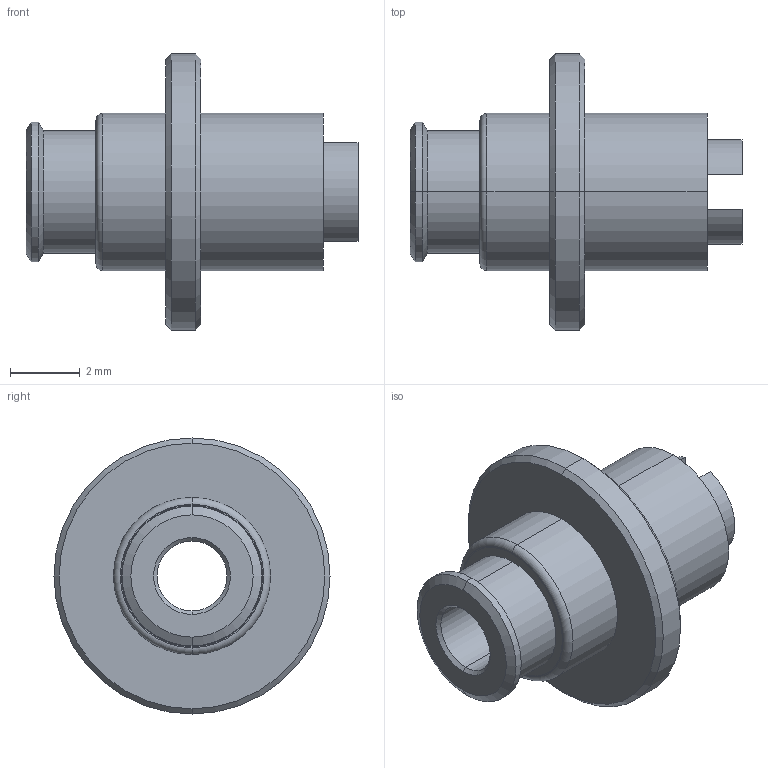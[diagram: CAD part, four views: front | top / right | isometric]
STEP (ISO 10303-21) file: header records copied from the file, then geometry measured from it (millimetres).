
FILE_DESCRIPTION((''),'2;1');
FILE_NAME('C1923-01','2022-05-18T15:20:35',('Administrator'),(''),'CREO PARAMETRIC BY PTC INC, 2018400','CREO PARAMETRIC BY PTC INC, 2018400','');
FILE_SCHEMA(('CONFIG_CONTROL_DESIGN'));
Length unit declared in the file: millimetre
Products named in the file (1): C1923-01
Bounding box: 9.5 x 7.9 x 7.9 mm (x, y, z)
Volume: 132.3 mm3; surface area: 281.4 mm2
Topology: 1 solids, 1 shells, 38 faces, 84 edges, 52 vertices
Faces by surface type: cylinder 14, plane 12, cone 10, torus 2
Entity records: 1134 total; most frequent: CARTESIAN_POINT 214, DIRECTION 202, ORIENTED_EDGE 168, EDGE_CURVE 84, AXIS2_PLACEMENT_3D 82, VERTEX_POINT 52, EDGE_LOOP 44, CIRCLE 44
